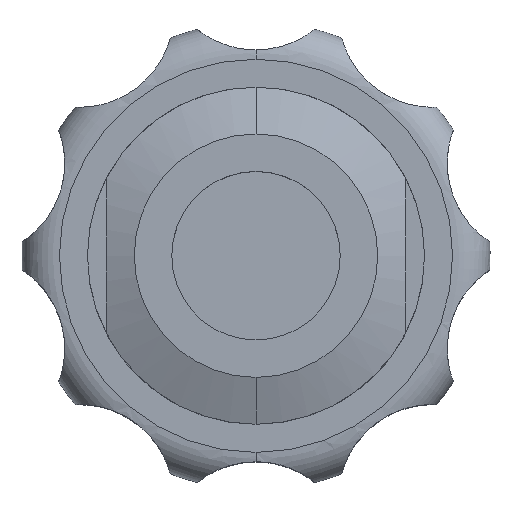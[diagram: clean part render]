
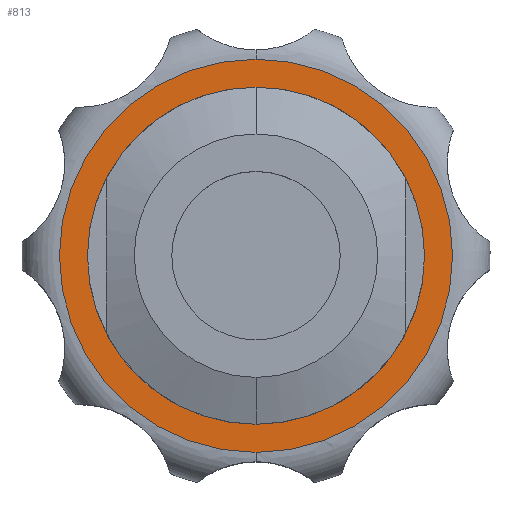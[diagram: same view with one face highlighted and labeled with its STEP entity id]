
A CAD part, top view. The second image highlights one B-rep face of the part: STEP entity #813.
In plain terms, the highlighted planar face has unit normal (0, 0, 1).
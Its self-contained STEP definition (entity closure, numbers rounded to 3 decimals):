
#80 = CARTESIAN_POINT ( 'NONE',  ( 0., 10.5, 0. ) ) ;
#85 = CIRCLE ( 'NONE', #1866, 9. ) ;
#108 = DIRECTION ( 'NONE',  ( 0., 0., -1. ) ) ;
#114 = ORIENTED_EDGE ( 'NONE', *, *, #1124, .F. ) ;
#163 = DIRECTION ( 'NONE',  ( 0., 1., 0. ) ) ;
#201 = CARTESIAN_POINT ( 'NONE',  ( 0., 0., 0. ) ) ;
#254 = CARTESIAN_POINT ( 'NONE',  ( 0., 9., 0. ) ) ;
#266 = ORIENTED_EDGE ( 'NONE', *, *, #413, .T. ) ;
#267 = CARTESIAN_POINT ( 'NONE',  ( 0., -9., 0. ) ) ;
#380 = FACE_OUTER_BOUND ( 'NONE', #1194, .T. ) ;
#385 = DIRECTION ( 'NONE',  ( 0., 1., 0. ) ) ;
#408 = EDGE_LOOP ( 'NONE', ( #266, #1641 ) ) ;
#413 = EDGE_CURVE ( 'NONE', #738, #650, #1000, .T. ) ;
#605 = DIRECTION ( 'NONE',  ( 0., 0., -1. ) ) ;
#621 = DIRECTION ( 'NONE',  ( 0., -1., 0. ) ) ;
#650 = VERTEX_POINT ( 'NONE', #267 ) ;
#738 = VERTEX_POINT ( 'NONE', #1118 ) ;
#813 = ADVANCED_FACE ( 'NONE', ( #1738, #380 ), #1675, .T. ) ;
#851 = AXIS2_PLACEMENT_3D ( 'NONE', #2303, #1234, #163 ) ;
#969 = VERTEX_POINT ( 'NONE', #2194 ) ;
#1000 = CIRCLE ( 'NONE', #1380, 9. ) ;
#1118 = CARTESIAN_POINT ( 'NONE',  ( 0., 9., 0. ) ) ;
#1124 = EDGE_CURVE ( 'NONE', #969, #1667, #2300, .T. ) ;
#1183 = CARTESIAN_POINT ( 'NONE',  ( 0., 0., 0. ) ) ;
#1194 = EDGE_LOOP ( 'NONE', ( #1710, #114 ) ) ;
#1234 = DIRECTION ( 'NONE',  ( 0., 0., -1. ) ) ;
#1316 = EDGE_CURVE ( 'NONE', #1667, #969, #1737, .T. ) ;
#1356 = DIRECTION ( 'NONE',  ( 0., 1., 0. ) ) ;
#1369 = AXIS2_PLACEMENT_3D ( 'NONE', #254, #2037, #621 ) ;
#1380 = AXIS2_PLACEMENT_3D ( 'NONE', #1183, #108, #1356 ) ;
#1449 = DIRECTION ( 'NONE',  ( 0., 0., -1. ) ) ;
#1641 = ORIENTED_EDGE ( 'NONE', *, *, #2281, .T. ) ;
#1657 = CARTESIAN_POINT ( 'NONE',  ( 0., 0., 0. ) ) ;
#1667 = VERTEX_POINT ( 'NONE', #80 ) ;
#1675 = PLANE ( 'NONE',  #1369 ) ;
#1710 = ORIENTED_EDGE ( 'NONE', *, *, #1316, .F. ) ;
#1737 = CIRCLE ( 'NONE', #1926, 10.5 ) ;
#1738 = FACE_BOUND ( 'NONE', #408, .T. ) ;
#1847 = DIRECTION ( 'NONE',  ( 0., 1., 0. ) ) ;
#1866 = AXIS2_PLACEMENT_3D ( 'NONE', #1657, #605, #1847 ) ;
#1926 = AXIS2_PLACEMENT_3D ( 'NONE', #201, #1449, #385 ) ;
#2037 = DIRECTION ( 'NONE',  ( 0., 0., 1. ) ) ;
#2194 = CARTESIAN_POINT ( 'NONE',  ( 0., -10.5, 0. ) ) ;
#2281 = EDGE_CURVE ( 'NONE', #650, #738, #85, .T. ) ;
#2300 = CIRCLE ( 'NONE', #851, 10.5 ) ;
#2303 = CARTESIAN_POINT ( 'NONE',  ( 0., 0., 0. ) ) ;
